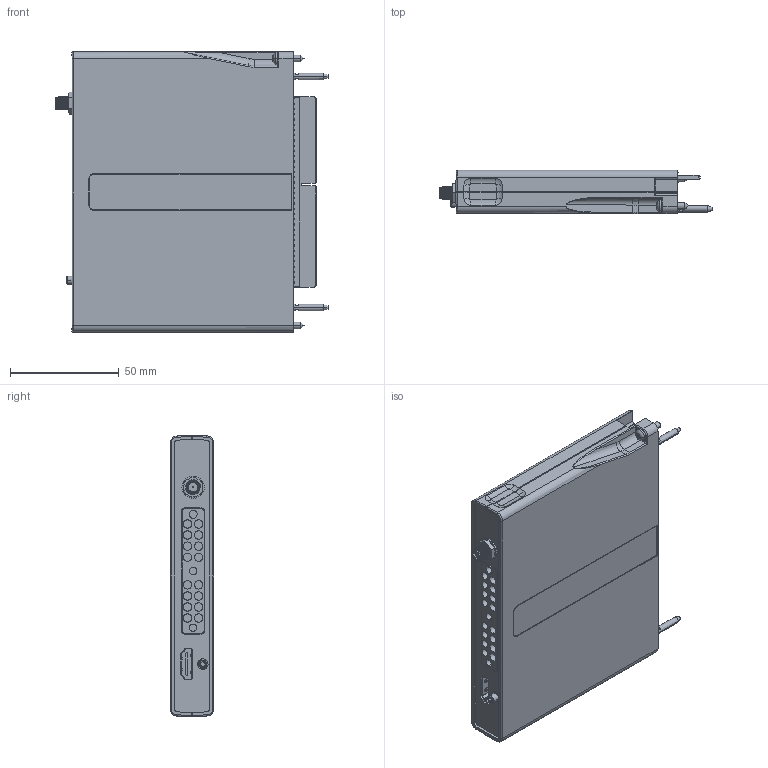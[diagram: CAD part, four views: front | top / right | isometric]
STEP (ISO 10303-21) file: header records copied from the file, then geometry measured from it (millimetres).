
FILE_DESCRIPTION((''),'2;1');
FILE_NAME('CU_NI-5753','2017-04-04T',('jjorden'),(''),'CREO PARAMETRIC BY PTC INC, 2015380','CREO PARAMETRIC BY PTC INC, 2015380','');
FILE_SCHEMA(('CONFIG_CONTROL_DESIGN'));
Products named in the file (1): CU_NI-5753
Bounding box: 124.97 x 19.81 x 128.68 mm (x, y, z)
Volume: 80089.1 mm3; surface area: 111903 mm2
Topology: 4 solids, 5 shells, 3513 faces, 8343 edges, 4864 vertices
Faces by surface type: plane 1600, cylinder 1265, bspline 463, cone 103, torus 42, sphere 40
Entity records: 123113 total; most frequent: CARTESIAN_POINT 46212, ORIENTED_EDGE 16646, DIRECTION 14674, EDGE_CURVE 8323, AXIS2_PLACEMENT_3D 4973, VERTEX_POINT 4902, VECTOR 4728, LINE 4728
